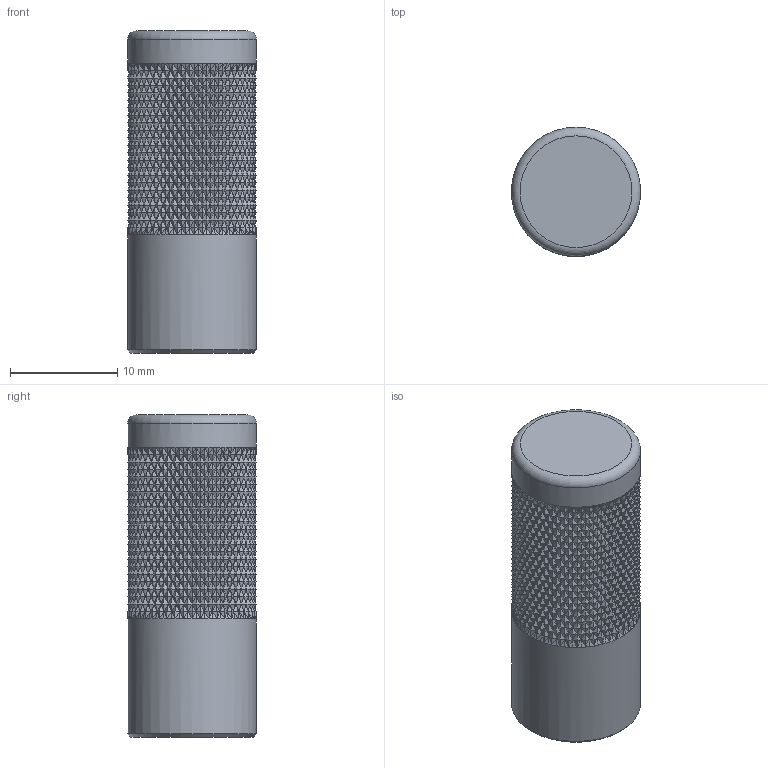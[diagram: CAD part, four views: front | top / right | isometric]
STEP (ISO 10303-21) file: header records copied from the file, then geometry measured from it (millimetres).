
FILE_DESCRIPTION(('Open CASCADE Model'),'2;1');
FILE_NAME('GR-PIN-knob-12','2026-10-19T21:24:32',('Author'),( 'Open CASCADE'),'Open CASCADE STEP processor 8.0','build123d', 'Unknown');
FILE_SCHEMA(('AUTOMOTIVE_DESIGN { 1 0 10303 214 1 1 1 1 }'));
Length unit declared in the file: millimetre
Products named in the file (2): GR-PIN-knob-12; brass_GR-PIN12__k
Assembly tree (1 placements, depth 2):
  GR-PIN-knob-12
    brass_GR-PIN12__k
Bounding box: 12 x 12 x 30 mm (x, y, z)
Volume: 3161.5 mm3; surface area: 1629.6 mm2
Topology: 1 solids, 1 shells, 4522 faces, 6782 edges, 2264 vertices
Faces by surface type: plane 4516, cylinder 4, cone 1, torus 1
Full cylindrical faces by diameter (mm): 3.3 x1, 5.1 x1, 12 x2
Entity records: 170185 total; most frequent: CARTESIAN_POINT 33530, DIRECTION 23195, ORIENTED_EDGE 13564, PCURVE 13564, DEFINITIONAL_REPRESENTATION 13564, LINE 13559, VECTOR 13559, EDGE_CURVE 6782
